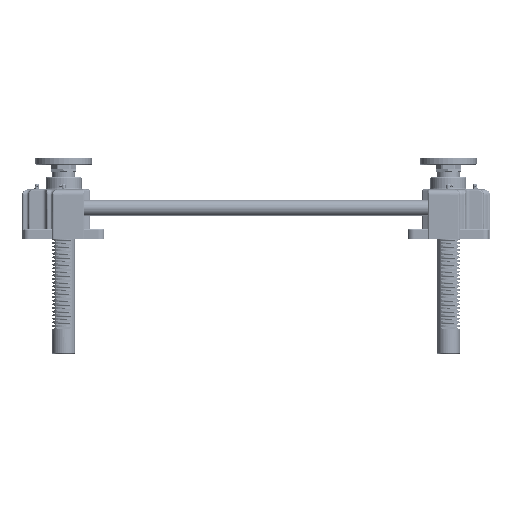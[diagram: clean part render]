
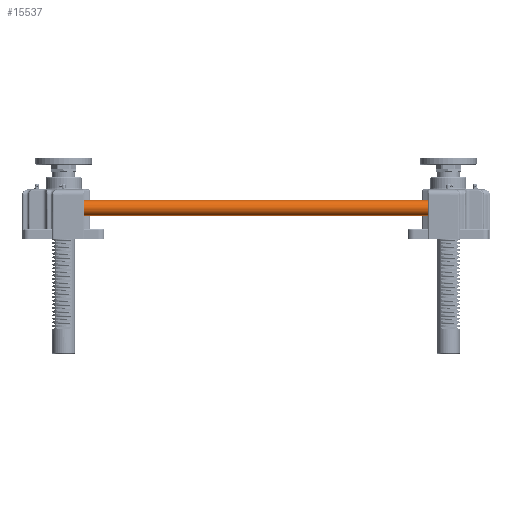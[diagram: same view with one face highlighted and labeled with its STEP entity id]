
A CAD part, left-side view. The second image highlights one B-rep face of the part: STEP entity #15537.
In plain terms, the highlighted cylindrical face has radius 20 mm (diameter 40 mm), a full revolution.
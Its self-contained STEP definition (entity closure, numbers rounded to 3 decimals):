
#15537=ADVANCED_FACE('',(#36221,#36222),#36223,.T.);
#36221=FACE_OUTER_BOUND('',#62018,.T.);
#36222=FACE_OUTER_BOUND('',#62019,.T.);
#36223=CYLINDRICAL_SURFACE('',#62020,20.0);
#62018=EDGE_LOOP('',(#143992));
#62019=EDGE_LOOP('',(#143993));
#62020=AXIS2_PLACEMENT_3D('',#143994,#143995,#143996);
#143992=ORIENTED_EDGE('',*,*,#170258,.T.);
#143993=ORIENTED_EDGE('',*,*,#170255,.T.);
#143994=CARTESIAN_POINT('',(0.0,0.0,1064.0));
#143995=DIRECTION('',(0.0,0.0,-1.0));
#143996=DIRECTION('',(-1.0,0.0,0.0));
#170255=EDGE_CURVE('',#213733,#213733,#213734,.F.);
#170258=EDGE_CURVE('',#213739,#213739,#213740,.T.);
#213733=VERTEX_POINT('',#288911);
#213734=CIRCLE('',#288912,20.0);
#213739=VERTEX_POINT('',#288917);
#213740=CIRCLE('',#288918,20.0);
#288911=CARTESIAN_POINT('',(20.0,0.0,1062.0));
#288912=AXIS2_PLACEMENT_3D('',#321064,#321065,#321066);
#288917=CARTESIAN_POINT('',(20.0,0.0,2.0));
#288918=AXIS2_PLACEMENT_3D('',#321073,#321074,#321075);
#321064=CARTESIAN_POINT('',(0.0,0.0,1062.0));
#321065=DIRECTION('',(0.0,0.0,1.0));
#321066=DIRECTION('',(1.0,0.0,0.0));
#321073=CARTESIAN_POINT('',(0.0,0.0,2.0));
#321074=DIRECTION('',(0.0,0.0,1.0));
#321075=DIRECTION('',(1.0,0.0,0.0));
